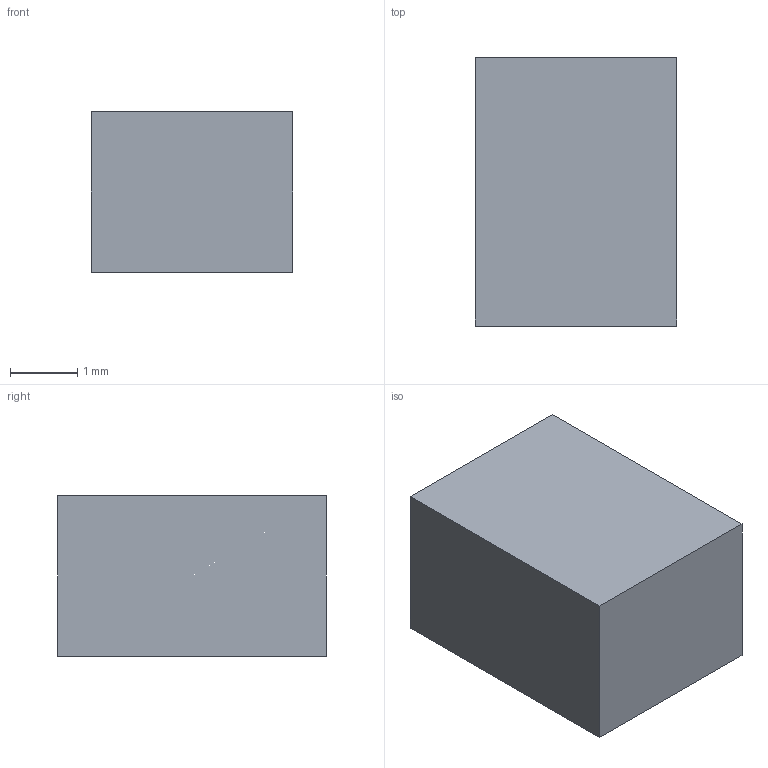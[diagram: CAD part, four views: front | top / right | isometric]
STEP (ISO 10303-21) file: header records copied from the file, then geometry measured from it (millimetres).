
FILE_DESCRIPTION(('Open CASCADE Model'),'2;1');
FILE_NAME('Open CASCADE Shape Model','2026-10-17T17:22:13',('Author'),( 'Open CASCADE'),'Open CASCADE STEP processor 7.9','Open CASCADE 7.9' ,'Unknown');
FILE_SCHEMA(('AUTOMOTIVE_DESIGN { 1 0 10303 214 1 1 1 1 }'));
Length unit declared in the file: millimetre
Products named in the file (1): Open CASCADE STEP translator 7.9 15
Bounding box: 3 x 4 x 2.4 mm (x, y, z)
Volume: 28.8 mm3; surface area: 57.6 mm2
Topology: 1 solids, 1 shells, 6 faces, 12 edges, 8 vertices
Faces by surface type: plane 6
Entity records: 322 total; most frequent: CARTESIAN_POINT 51, DIRECTION 50, LINE 36, VECTOR 36, ORIENTED_EDGE 24, PCURVE 24, DEFINITIONAL_REPRESENTATION 24, EDGE_CURVE 12
